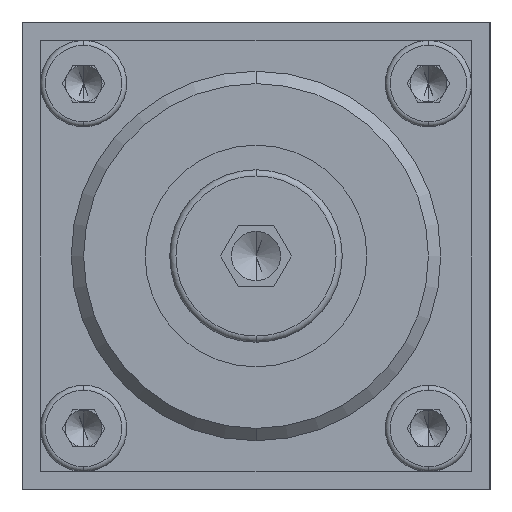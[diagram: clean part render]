
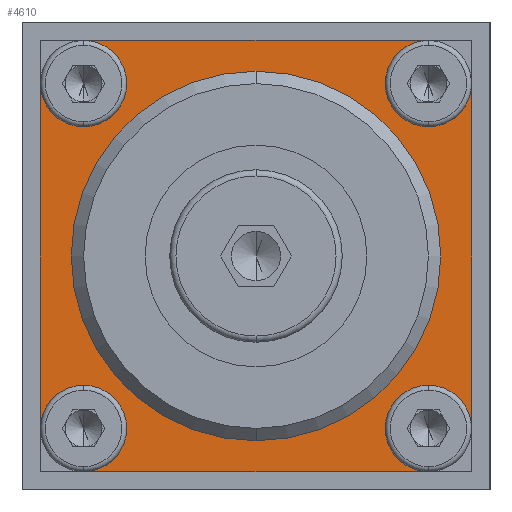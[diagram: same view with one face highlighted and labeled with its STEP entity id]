
A CAD part, left-side view. The second image highlights one B-rep face of the part: STEP entity #4610.
In plain terms, the highlighted planar face has unit normal (-1, 0, 0).
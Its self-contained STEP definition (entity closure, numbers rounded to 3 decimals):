
#114 = EDGE_CURVE ( 'NONE', #2699, #17409, #13589, .T. ) ;
#453 = AXIS2_PLACEMENT_3D ( 'NONE', #8773, #21872, #10728 ) ;
#1239 = VERTEX_POINT ( 'NONE', #1734 ) ;
#1328 = CARTESIAN_POINT ( 'NONE',  ( -6., -17.5, 17.5 ) ) ;
#1387 = LINE ( 'NONE', #19110, #5795 ) ;
#1412 = ORIENTED_EDGE ( 'NONE', *, *, #21945, .T. ) ;
#1464 = CIRCLE ( 'NONE', #13254, 3.5 ) ;
#1585 = ORIENTED_EDGE ( 'NONE', *, *, #11581, .F. ) ;
#1615 = DIRECTION ( 'NONE',  ( 0., 0., 1. ) ) ;
#1659 = CARTESIAN_POINT ( 'NONE',  ( -6., 14., -14. ) ) ;
#1734 = CARTESIAN_POINT ( 'NONE',  ( -6., 14., -10.5 ) ) ;
#1846 = VERTEX_POINT ( 'NONE', #12302 ) ;
#2074 = AXIS2_PLACEMENT_3D ( 'NONE', #15051, #3712, #16930 ) ;
#2494 = ORIENTED_EDGE ( 'NONE', *, *, #114, .F. ) ;
#2563 = FACE_BOUND ( 'NONE', #14333, .T. ) ;
#2699 = VERTEX_POINT ( 'NONE', #12165 ) ;
#2722 = CIRCLE ( 'NONE', #2074, 3.5 ) ;
#3005 = CARTESIAN_POINT ( 'NONE',  ( -6., -14., -14. ) ) ;
#3128 = CARTESIAN_POINT ( 'NONE',  ( -6., 0., 0. ) ) ;
#3316 = LINE ( 'NONE', #1328, #22672 ) ;
#3551 = ORIENTED_EDGE ( 'NONE', *, *, #17234, .F. ) ;
#3579 = DIRECTION ( 'NONE',  ( 0., 0., 1. ) ) ;
#3688 = PLANE ( 'NONE',  #24101 ) ;
#3712 = DIRECTION ( 'NONE',  ( -1., 0., 0. ) ) ;
#3722 = AXIS2_PLACEMENT_3D ( 'NONE', #21285, #10093, #23137 ) ;
#3910 = CARTESIAN_POINT ( 'NONE',  ( -6., 0., 15. ) ) ;
#4610 = ADVANCED_FACE ( 'NONE', ( #2563, #22519 ), #3688, .T. ) ;
#4758 = ORIENTED_EDGE ( 'NONE', *, *, #5782, .T. ) ;
#4880 = DIRECTION ( 'NONE',  ( 0., 0., 1. ) ) ;
#5013 = DIRECTION ( 'NONE',  ( 0., 0., 1. ) ) ;
#5185 = CARTESIAN_POINT ( 'NONE',  ( -6., 14., -14. ) ) ;
#5242 = AXIS2_PLACEMENT_3D ( 'NONE', #8278, #21370, #10202 ) ;
#5316 = EDGE_CURVE ( 'NONE', #12184, #24384, #19850, .T. ) ;
#5782 = EDGE_CURVE ( 'NONE', #20959, #12210, #24137, .T. ) ;
#5795 = VECTOR ( 'NONE', #20966, 1000. ) ;
#6249 = CARTESIAN_POINT ( 'NONE',  ( -6., -14., 17.5 ) ) ;
#6555 = CARTESIAN_POINT ( 'NONE',  ( -6., -17.5, -17.5 ) ) ;
#7091 = DIRECTION ( 'NONE',  ( 0., 0., 1. ) ) ;
#7587 = CARTESIAN_POINT ( 'NONE',  ( -6., -14., 10.5 ) ) ;
#7696 = ORIENTED_EDGE ( 'NONE', *, *, #15625, .T. ) ;
#8221 = CARTESIAN_POINT ( 'NONE',  ( -6., 17.5, 14. ) ) ;
#8278 = CARTESIAN_POINT ( 'NONE',  ( -6., -14., -14. ) ) ;
#8580 = CARTESIAN_POINT ( 'NONE',  ( -6., 14., 14. ) ) ;
#8773 = CARTESIAN_POINT ( 'NONE',  ( -6., -14., 14. ) ) ;
#8916 = VERTEX_POINT ( 'NONE', #24176 ) ;
#9551 = AXIS2_PLACEMENT_3D ( 'NONE', #3005, #16244, #4880 ) ;
#9931 = EDGE_CURVE ( 'NONE', #8916, #1239, #15089, .T. ) ;
#9956 = VERTEX_POINT ( 'NONE', #22080 ) ;
#10073 = CARTESIAN_POINT ( 'NONE',  ( -6., 17.5, -17.5 ) ) ;
#10093 = DIRECTION ( 'NONE',  ( -1., 0., 0. ) ) ;
#10151 = CIRCLE ( 'NONE', #9551, 3.5 ) ;
#10202 = DIRECTION ( 'NONE',  ( 0., 0., 1. ) ) ;
#10274 = ORIENTED_EDGE ( 'NONE', *, *, #13027, .F. ) ;
#10501 = DIRECTION ( 'NONE',  ( 0., 0., 1. ) ) ;
#10650 = ORIENTED_EDGE ( 'NONE', *, *, #5316, .F. ) ;
#10728 = DIRECTION ( 'NONE',  ( 0., 0., 1. ) ) ;
#10925 = ORIENTED_EDGE ( 'NONE', *, *, #10949, .F. ) ;
#10949 = EDGE_CURVE ( 'NONE', #21428, #1846, #10151, .T. ) ;
#11017 = ORIENTED_EDGE ( 'NONE', *, *, #20718, .F. ) ;
#11346 = CARTESIAN_POINT ( 'NONE',  ( -6., 0., 0. ) ) ;
#11398 = CARTESIAN_POINT ( 'NONE',  ( -6., 14., 10.5 ) ) ;
#11581 = EDGE_CURVE ( 'NONE', #23817, #15405, #20670, .T. ) ;
#12039 = CARTESIAN_POINT ( 'NONE',  ( -6., 14., 17.5 ) ) ;
#12165 = CARTESIAN_POINT ( 'NONE',  ( -6., 0., -15. ) ) ;
#12184 = VERTEX_POINT ( 'NONE', #7587 ) ;
#12210 = VERTEX_POINT ( 'NONE', #13366 ) ;
#12302 = CARTESIAN_POINT ( 'NONE',  ( -6., -14., -17.5 ) ) ;
#12913 = EDGE_CURVE ( 'NONE', #8916, #1846, #20621, .T. ) ;
#12996 = DIRECTION ( 'NONE',  ( -1., 0., 0. ) ) ;
#13027 = EDGE_CURVE ( 'NONE', #14337, #12184, #16006, .T. ) ;
#13254 = AXIS2_PLACEMENT_3D ( 'NONE', #1659, #14919, #3579 ) ;
#13257 = DIRECTION ( 'NONE',  ( 0., 0., 1. ) ) ;
#13366 = CARTESIAN_POINT ( 'NONE',  ( -6., 17.5, -14. ) ) ;
#13435 = CIRCLE ( 'NONE', #20509, 15. ) ;
#13589 = CIRCLE ( 'NONE', #14924, 15. ) ;
#14333 = EDGE_LOOP ( 'NONE', ( #3551, #2494 ) ) ;
#14337 = VERTEX_POINT ( 'NONE', #6249 ) ;
#14919 = DIRECTION ( 'NONE',  ( -1., 0., 0. ) ) ;
#14924 = AXIS2_PLACEMENT_3D ( 'NONE', #3128, #16372, #5013 ) ;
#15051 = CARTESIAN_POINT ( 'NONE',  ( -6., 14., 14. ) ) ;
#15089 = CIRCLE ( 'NONE', #19578, 3.5 ) ;
#15405 = VERTEX_POINT ( 'NONE', #12039 ) ;
#15625 = EDGE_CURVE ( 'NONE', #14337, #15405, #3316, .T. ) ;
#15719 = VECTOR ( 'NONE', #17862, 1000. ) ;
#15883 = ORIENTED_EDGE ( 'NONE', *, *, #17581, .F. ) ;
#15993 = ORIENTED_EDGE ( 'NONE', *, *, #9931, .F. ) ;
#16006 = CIRCLE ( 'NONE', #453, 3.5 ) ;
#16244 = DIRECTION ( 'NONE',  ( -1., 0., 0. ) ) ;
#16372 = DIRECTION ( 'NONE',  ( -1., 0., 0. ) ) ;
#16884 = CIRCLE ( 'NONE', #5242, 3.5 ) ;
#16930 = DIRECTION ( 'NONE',  ( 0., 0., 1. ) ) ;
#17234 = EDGE_CURVE ( 'NONE', #17409, #2699, #13435, .T. ) ;
#17409 = VERTEX_POINT ( 'NONE', #3910 ) ;
#17581 = EDGE_CURVE ( 'NONE', #9956, #21428, #16884, .T. ) ;
#17812 = EDGE_CURVE ( 'NONE', #1239, #12210, #1464, .T. ) ;
#17862 = DIRECTION ( 'NONE',  ( 0., -1., 0. ) ) ;
#18318 = DIRECTION ( 'NONE',  ( 0., 1., 0. ) ) ;
#18395 = DIRECTION ( 'NONE',  ( -1., 0., 0. ) ) ;
#18581 = CARTESIAN_POINT ( 'NONE',  ( -6., -14., -10.5 ) ) ;
#19110 = CARTESIAN_POINT ( 'NONE',  ( -6., -17.5, -17.5 ) ) ;
#19155 = ORIENTED_EDGE ( 'NONE', *, *, #17812, .F. ) ;
#19578 = AXIS2_PLACEMENT_3D ( 'NONE', #5185, #18395, #7091 ) ;
#19850 = CIRCLE ( 'NONE', #3722, 3.5 ) ;
#20509 = AXIS2_PLACEMENT_3D ( 'NONE', #24075, #12996, #1615 ) ;
#20621 = LINE ( 'NONE', #6555, #15719 ) ;
#20670 = CIRCLE ( 'NONE', #20712, 3.5 ) ;
#20712 = AXIS2_PLACEMENT_3D ( 'NONE', #8580, #21649, #10501 ) ;
#20718 = EDGE_CURVE ( 'NONE', #20959, #23817, #2722, .T. ) ;
#20959 = VERTEX_POINT ( 'NONE', #8221 ) ;
#20966 = DIRECTION ( 'NONE',  ( 0., 0., 1. ) ) ;
#21285 = CARTESIAN_POINT ( 'NONE',  ( -6., -14., 14. ) ) ;
#21370 = DIRECTION ( 'NONE',  ( -1., 0., 0. ) ) ;
#21428 = VERTEX_POINT ( 'NONE', #18581 ) ;
#21649 = DIRECTION ( 'NONE',  ( -1., 0., 0. ) ) ;
#21872 = DIRECTION ( 'NONE',  ( -1., 0., 0. ) ) ;
#21905 = EDGE_LOOP ( 'NONE', ( #22432, #10925, #15883, #1412, #10650, #10274, #7696, #1585, #11017, #4758, #19155, #15993 ) ) ;
#21945 = EDGE_CURVE ( 'NONE', #9956, #24384, #1387, .T. ) ;
#22080 = CARTESIAN_POINT ( 'NONE',  ( -6., -17.5, -14. ) ) ;
#22432 = ORIENTED_EDGE ( 'NONE', *, *, #12913, .T. ) ;
#22519 = FACE_OUTER_BOUND ( 'NONE', #21905, .T. ) ;
#22672 = VECTOR ( 'NONE', #18318, 1000. ) ;
#23038 = CARTESIAN_POINT ( 'NONE',  ( -6., -17.5, 14. ) ) ;
#23046 = DIRECTION ( 'NONE',  ( 0., 0., -1. ) ) ;
#23137 = DIRECTION ( 'NONE',  ( 0., 0., 1. ) ) ;
#23551 = VECTOR ( 'NONE', #23046, 1000. ) ;
#23817 = VERTEX_POINT ( 'NONE', #11398 ) ;
#24075 = CARTESIAN_POINT ( 'NONE',  ( -6., 0., 0. ) ) ;
#24101 = AXIS2_PLACEMENT_3D ( 'NONE', #11346, #24336, #13257 ) ;
#24137 = LINE ( 'NONE', #10073, #23551 ) ;
#24176 = CARTESIAN_POINT ( 'NONE',  ( -6., 14., -17.5 ) ) ;
#24336 = DIRECTION ( 'NONE',  ( -1., 0., 0. ) ) ;
#24384 = VERTEX_POINT ( 'NONE', #23038 ) ;
